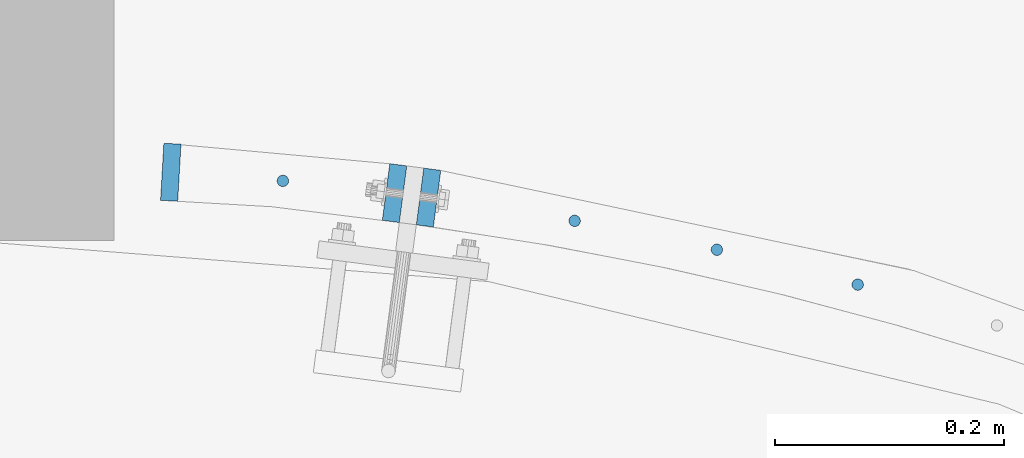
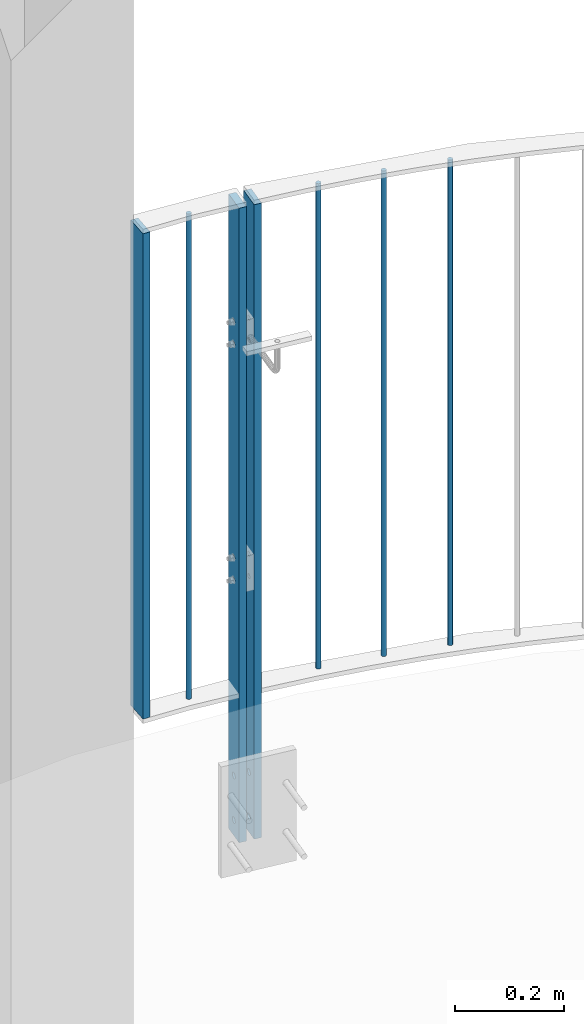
# One storey, part 75 of 296: 7 columns, 12 openings.
"""IFC2X3 building model written with IfcOpenShell, lengths in millimetres."""

from ifc_helpers import new_model, entity, si_unit, converted_unit, frame, frame_2d, origin, origin_with_axes, origin_2d, place, context, project, spatial, rectangle, circle, extrude, material, element, save


model = new_model("IFC2X3")

# Units and contexts
model_context = context("Model", 3, precision=1e-09, world=origin_with_axes())
ifc_project = project(units=[si_unit("LENGTHUNIT", "METRE", prefix="MILLI"), si_unit("AREAUNIT", "SQUARE_METRE"), si_unit("VOLUMEUNIT", "CUBIC_METRE"), converted_unit("PLANEANGLEUNIT", "DEGREE", entity("IfcPlaneAngleMeasure", 0.01745329), si_unit("PLANEANGLEUNIT", "RADIAN"), dimensions=[0, 0, 0, 0, 0, 0, 0])], contexts=[model_context])

# Site, building, storey
site_placement = place(None, origin_with_axes())
site = spatial("IfcSite", under=ifc_project, at=site_placement, Name="TZD-S?d | Treppenhausgel?nder", CompositionType="ELEMENT")
building_placement = place(site_placement, origin_with_axes())
building = spatial("IfcBuilding", under=site, at=building_placement, Name="Struktur 1", CompositionType="ELEMENT")
storey_placement = place(building_placement, origin_with_axes())
storey = spatial("IfcBuildingStorey", under=building, at=storey_placement, Name="Default Storey", CompositionType="ELEMENT", Elevation=0.0)

# Columns
ifc_material = material(Name="S235JR")
for number, where, z_axis, x_axis in (
    (1, (3705.629638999, 2786.294675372, 7350.0), (0.0, 0.0, -1.0), (-0.766044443, 0.64278761, 0.0)),
    (2, (3582.399315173, 2816.831044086, 7350.0), (0.0, 0.0, -1.0), (-0.766044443, 0.64278761, 0.0)),
    (3, (3457.983775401, 2842.108622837, 7350.0), (0.0, 0.0, -1.0), (-0.766044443, 0.64278761, 0.0)),
    (4, (3202.68123547, 2877.077951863, 7350.0), (0.0, 0.0, -1.0), (0.0, 1.0, 0.0)),
):
    element("IfcColumn", number, at=place(None, frame(where, z_axis=z_axis, x_axis=x_axis)), inside=storey, material=ifc_material, Name="-", ObjectType="-", context=model_context, shape_type="SweptSolid", body=[
        extrude(circle(Radius=5.0, at=origin_2d()), origin(), (0.0, 0.0, -1.0), 1090.0),
    ])
column_1_placement = place(None, frame((3104.604004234, 2884.610301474, 8440.0), z_axis=(0.0, 0.0, -1.0), x_axis=(0.998341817, -0.057564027, 0.0)))
element("IfcColumn", 5, at=column_1_placement, inside=storey, material=ifc_material, Name="-", ObjectType="-", context=model_context, shape_type="SweptSolid", body=[
    extrude(rectangle(XDim=15.0, YDim=50.0, at=origin_2d()), origin(), (0.0, 0.0, 1.0), 1090.0),
])

# Column, openings
column_2_placement = place(None, frame((3330.144987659, 2862.462242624, 7015.001), z_axis=(0.0, 0.0, -1.0), x_axis=(-0.991444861, 0.130526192, 0.0)))
column_2 = element("IfcColumn", 6, at=column_2_placement, inside=storey, material=ifc_material, Name="-", ObjectType="-", context=model_context, shape_type="SweptSolid", body=[
    extrude(rectangle(XDim=15.0, YDim=50.0, at=origin_2d()), origin(), (0.0, 0.0, -1.0), 1424.999),
])
opening_1_placement = place(column_2_placement, frame((8.0, 5.001, -1154.999999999), z_axis=(1.0, 0.0, 0.0), x_axis=(0.0, 1.0, 0.0)))
element("IfcOpeningElement", 7, at=opening_1_placement, cuts=column_2, ObjectType="Opening", context=model_context, shape_type="SweptSolid", body=[
    extrude(circle(Radius=5.001, at=frame_2d((-5.001, 0.0), x_axis=(1.0, 0.0))), origin(), (0.0, 0.0, -1.0), 16.0),
])
opening_2_placement = place(column_2_placement, frame((8.0, 5.001, -1104.999999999), z_axis=(1.0, 0.0, 0.0), x_axis=(0.0, 1.0, 0.0)))
element("IfcOpeningElement", 8, at=opening_2_placement, cuts=column_2, ObjectType="Opening", context=model_context, shape_type="SweptSolid", body=[
    extrude(circle(Radius=5.001, at=frame_2d((-5.001, 0.0), x_axis=(1.0, 0.0))), origin(), (0.0, 0.0, -1.0), 16.0),
])
opening_3_placement = place(column_2_placement, frame((8.0, 5.001, -624.999999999), z_axis=(1.0, 0.0, 0.0), x_axis=(0.0, 1.0, 0.0)))
element("IfcOpeningElement", 9, at=opening_3_placement, cuts=column_2, ObjectType="Opening", context=model_context, shape_type="SweptSolid", body=[
    extrude(circle(Radius=5.001, at=frame_2d((-5.001, 0.0), x_axis=(1.0, 0.0))), origin(), (0.0, 0.0, -1.0), 16.0),
])
opening_4_placement = place(column_2_placement, frame((8.0, 5.001, -574.999999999), z_axis=(1.0, 0.0, 0.0), x_axis=(0.0, 1.0, 0.0)))
element("IfcOpeningElement", 10, at=opening_4_placement, cuts=column_2, ObjectType="Opening", context=model_context, shape_type="SweptSolid", body=[
    extrude(circle(Radius=5.001, at=frame_2d((-5.001, 0.0), x_axis=(1.0, 0.0))), origin(), (0.0, 0.0, -1.0), 16.0),
])
opening_5_placement = place(column_2_placement, frame((8.0, 7.001, -135.0), z_axis=(1.0, 0.0, 0.0), x_axis=(0.0, 1.0, 0.0)))
element("IfcOpeningElement", 11, at=opening_5_placement, cuts=column_2, ObjectType="Opening", context=model_context, shape_type="SweptSolid", body=[
    extrude(circle(Radius=7.001, at=frame_2d((-7.001, 0.0), x_axis=(1.0, 0.0))), origin(), (0.0, 0.0, -1.0), 16.0),
])
opening_6_placement = place(column_2_placement, frame((8.0, 7.001, -35.0), z_axis=(1.0, 0.0, 0.0), x_axis=(0.0, 1.0, 0.0)))
element("IfcOpeningElement", 12, at=opening_6_placement, cuts=column_2, ObjectType="Opening", context=model_context, shape_type="SweptSolid", body=[
    extrude(circle(Radius=7.001, at=frame_2d((-7.001, 0.0), x_axis=(1.0, 0.0))), origin(), (0.0, 0.0, -1.0), 16.0),
])

column_3_placement = place(None, frame((3300.401641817, 2866.378028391, 7015.001), z_axis=(0.0, 0.0, 1.0), x_axis=(0.991444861, -0.130526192, 0.0)))
column_3 = element("IfcColumn", 13, at=column_3_placement, inside=storey, material=ifc_material, Name="-", ObjectType="-", context=model_context, shape_type="SweptSolid", body=[
    extrude(rectangle(XDim=15.0, YDim=50.0, at=origin_2d()), origin(), (0.0, 0.0, 1.0), 1424.999),
])
opening_7_placement = place(column_3_placement, frame((-8.0, 5.001, 624.999999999), z_axis=(-1.0, 0.0, 0.0), x_axis=(0.0, -1.0, 0.0)))
element("IfcOpeningElement", 14, at=opening_7_placement, cuts=column_3, ObjectType="Opening", context=model_context, shape_type="SweptSolid", body=[
    extrude(circle(Radius=5.001, at=frame_2d((5.001, 0.0), x_axis=(1.0, 0.0))), origin(), (0.0, 0.0, -1.0), 16.0),
])
opening_8_placement = place(column_3_placement, frame((-8.0, 5.001, 574.999999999), z_axis=(-1.0, 0.0, 0.0), x_axis=(0.0, -1.0, 0.0)))
element("IfcOpeningElement", 15, at=opening_8_placement, cuts=column_3, ObjectType="Opening", context=model_context, shape_type="SweptSolid", body=[
    extrude(circle(Radius=5.001, at=frame_2d((5.001, 0.0), x_axis=(1.0, 0.0))), origin(), (0.0, 0.0, -1.0), 16.0),
])
opening_9_placement = place(column_3_placement, frame((-8.0, 5.001, 1154.999999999), z_axis=(-1.0, 0.0, 0.0), x_axis=(0.0, -1.0, 0.0)))
element("IfcOpeningElement", 16, at=opening_9_placement, cuts=column_3, ObjectType="Opening", context=model_context, shape_type="SweptSolid", body=[
    extrude(circle(Radius=5.001, at=frame_2d((5.001, 0.0), x_axis=(1.0, 0.0))), origin(), (0.0, 0.0, -1.0), 16.0),
])
opening_10_placement = place(column_3_placement, frame((-8.0, 5.001, 1104.999999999), z_axis=(-1.0, 0.0, 0.0), x_axis=(0.0, -1.0, 0.0)))
element("IfcOpeningElement", 17, at=opening_10_placement, cuts=column_3, ObjectType="Opening", context=model_context, shape_type="SweptSolid", body=[
    extrude(circle(Radius=5.001, at=frame_2d((5.001, 0.0), x_axis=(1.0, 0.0))), origin(), (0.0, 0.0, -1.0), 16.0),
])
opening_11_placement = place(column_3_placement, frame((-8.0, 7.001, 135.0), z_axis=(-1.0, 0.0, 0.0), x_axis=(0.0, -1.0, 0.0)))
element("IfcOpeningElement", 18, at=opening_11_placement, cuts=column_3, ObjectType="Opening", context=model_context, shape_type="SweptSolid", body=[
    extrude(circle(Radius=7.001, at=frame_2d((7.001, 0.0), x_axis=(1.0, 0.0))), origin(), (0.0, 0.0, -1.0), 16.0),
])
opening_12_placement = place(column_3_placement, frame((-8.0, 7.001, 35.0), z_axis=(-1.0, 0.0, 0.0), x_axis=(0.0, -1.0, 0.0)))
element("IfcOpeningElement", 19, at=opening_12_placement, cuts=column_3, ObjectType="Opening", context=model_context, shape_type="SweptSolid", body=[
    extrude(circle(Radius=7.001, at=frame_2d((7.001, 0.0), x_axis=(1.0, 0.0))), origin(), (0.0, 0.0, -1.0), 16.0),
])

save(model, "model.ifc")
